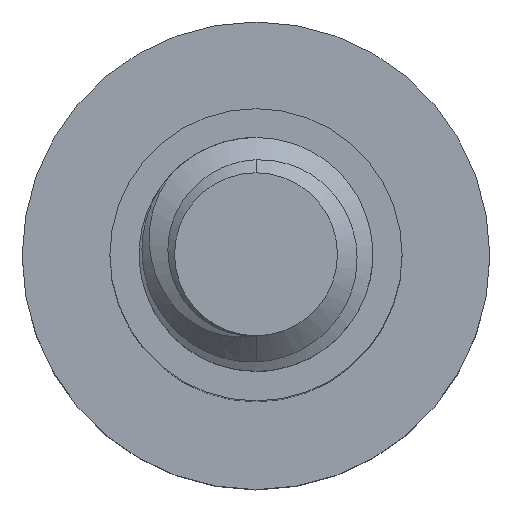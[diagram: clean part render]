
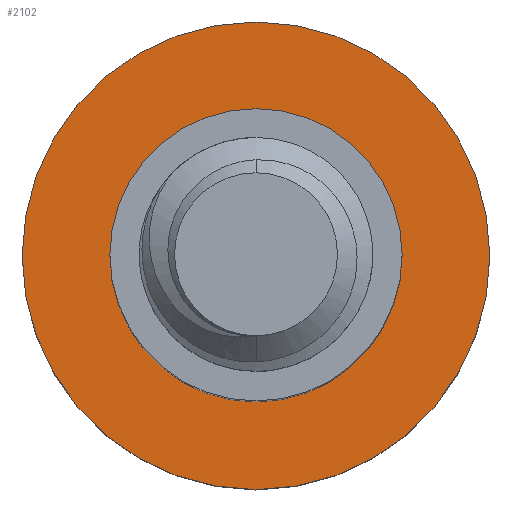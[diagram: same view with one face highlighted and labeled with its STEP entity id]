
A CAD part, top view. The second image highlights one B-rep face of the part: STEP entity #2102.
In plain terms, the highlighted planar face has unit normal (0, 0, 1).
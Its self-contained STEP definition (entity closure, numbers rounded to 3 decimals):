
#58 = AXIS2_PLACEMENT_3D ( 'NONE', #1017, #1688, #492 ) ;
#242 = AXIS2_PLACEMENT_3D ( 'NONE', #723, #1229, #1715 ) ;
#259 = FACE_BOUND ( 'NONE', #1068, .T. ) ;
#270 = PLANE ( 'NONE',  #1473 ) ;
#315 = CIRCLE ( 'NONE', #1480, 2.5 ) ;
#340 = DIRECTION ( 'NONE',  ( -1., 0., 0. ) ) ;
#446 = CARTESIAN_POINT ( 'NONE',  ( 0., 0., -10. ) ) ;
#460 = DIRECTION ( 'NONE',  ( -1., 0., 0. ) ) ;
#461 = ORIENTED_EDGE ( 'NONE', *, *, #1471, .T. ) ;
#492 = DIRECTION ( 'NONE',  ( -1., 0., 0. ) ) ;
#498 = CARTESIAN_POINT ( 'NONE',  ( 0., 0., -10. ) ) ;
#550 = VERTEX_POINT ( 'NONE', #2157 ) ;
#573 = EDGE_CURVE ( 'NONE', #799, #1922, #2163, .T. ) ;
#597 = DIRECTION ( 'NONE',  ( 0., 0., -1. ) ) ;
#668 = DIRECTION ( 'NONE',  ( 0., 0., -1. ) ) ;
#707 = EDGE_CURVE ( 'NONE', #550, #1491, #1962, .T. ) ;
#723 = CARTESIAN_POINT ( 'NONE',  ( 0., 0., -10. ) ) ;
#774 = EDGE_CURVE ( 'NONE', #1922, #799, #1778, .T. ) ;
#799 = VERTEX_POINT ( 'NONE', #1701 ) ;
#869 = ORIENTED_EDGE ( 'NONE', *, *, #707, .T. ) ;
#1017 = CARTESIAN_POINT ( 'NONE',  ( 0., 0., -10. ) ) ;
#1068 = EDGE_LOOP ( 'NONE', ( #461, #869 ) ) ;
#1141 = CARTESIAN_POINT ( 'NONE',  ( 0., 0., -10. ) ) ;
#1229 = DIRECTION ( 'NONE',  ( 0., 0., -1. ) ) ;
#1265 = AXIS2_PLACEMENT_3D ( 'NONE', #498, #668, #340 ) ;
#1311 = FACE_OUTER_BOUND ( 'NONE', #1368, .T. ) ;
#1368 = EDGE_LOOP ( 'NONE', ( #1587, #1736 ) ) ;
#1435 = CARTESIAN_POINT ( 'NONE',  ( 4., 0., -10. ) ) ;
#1471 = EDGE_CURVE ( 'NONE', #1491, #550, #315, .T. ) ;
#1473 = AXIS2_PLACEMENT_3D ( 'NONE', #1141, #1615, #2086 ) ;
#1480 = AXIS2_PLACEMENT_3D ( 'NONE', #446, #597, #460 ) ;
#1491 = VERTEX_POINT ( 'NONE', #1616 ) ;
#1587 = ORIENTED_EDGE ( 'NONE', *, *, #774, .F. ) ;
#1615 = DIRECTION ( 'NONE',  ( 0., 0., -1. ) ) ;
#1616 = CARTESIAN_POINT ( 'NONE',  ( -2.5, 0., -10. ) ) ;
#1688 = DIRECTION ( 'NONE',  ( 0., 0., -1. ) ) ;
#1701 = CARTESIAN_POINT ( 'NONE',  ( -4., 0., -10. ) ) ;
#1715 = DIRECTION ( 'NONE',  ( -1., 0., 0. ) ) ;
#1736 = ORIENTED_EDGE ( 'NONE', *, *, #573, .F. ) ;
#1778 = CIRCLE ( 'NONE', #242, 4. ) ;
#1922 = VERTEX_POINT ( 'NONE', #1435 ) ;
#1962 = CIRCLE ( 'NONE', #58, 2.5 ) ;
#2086 = DIRECTION ( 'NONE',  ( -1., 0., 0. ) ) ;
#2102 = ADVANCED_FACE ( 'NONE', ( #259, #1311 ), #270, .F. ) ;
#2157 = CARTESIAN_POINT ( 'NONE',  ( 2.5, 0., -10. ) ) ;
#2163 = CIRCLE ( 'NONE', #1265, 4. ) ;
